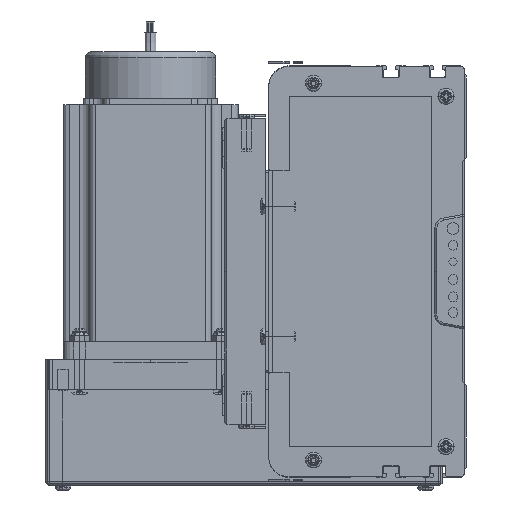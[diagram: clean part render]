
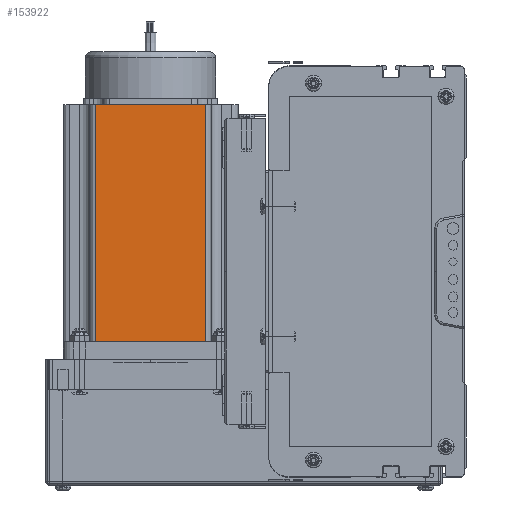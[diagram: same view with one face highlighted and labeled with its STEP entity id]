
A CAD part, left-side view. The second image highlights one B-rep face of the part: STEP entity #153922.
In plain terms, the highlighted planar face has unit normal (-1, 0, 0) as drawn and (0, -1, 0) by its records, which use the part's own axes.
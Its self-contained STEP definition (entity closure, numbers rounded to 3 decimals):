
#36149 = CARTESIAN_POINT ( 'NONE',  ( 69.74, 0., 116.5 ) ) ;
#36154 = DIRECTION ( 'NONE',  ( 1., 0., 0. ) ) ;
#36155 = VECTOR ( 'NONE', #36154, 1000. ) ;
#36156 = CARTESIAN_POINT ( 'NONE',  ( 0., 0., 116.5 ) ) ;
#36157 = LINE ( 'NONE', #36156, #36155 ) ;
#39840 = CARTESIAN_POINT ( 'NONE',  ( 16.16, 0., 116.5 ) ) ;
#40464 = DIRECTION ( 'NONE',  ( 0., 0., -1. ) ) ;
#40465 = VECTOR ( 'NONE', #40464, 1000. ) ;
#40466 = CARTESIAN_POINT ( 'NONE',  ( 16.16, 0., 116.5 ) ) ;
#40467 = LINE ( 'NONE', #40466, #40465 ) ;
#40638 = CARTESIAN_POINT ( 'NONE',  ( 16.16, 0., 0. ) ) ;
#40655 = CARTESIAN_POINT ( 'NONE',  ( 69.74, 0., 0. ) ) ;
#40659 = CARTESIAN_POINT ( 'NONE',  ( 0., 0., 0. ) ) ;
#40660 = LINE ( 'NONE', #40659, #40697 ) ;
#40686 = CARTESIAN_POINT ( 'NONE',  ( 0., 0., 116.5 ) ) ;
#40691 = PLANE ( 'NONE',  #40692 ) ;
#40692 = AXIS2_PLACEMENT_3D ( 'NONE', #40686, #40753, #40752 ) ;
#40694 = DIRECTION ( 'NONE',  ( 1., 0., 0. ) ) ;
#40697 = VECTOR ( 'NONE', #40694, 1000. ) ;
#40742 = LINE ( 'NONE', #40858, #40857 ) ;
#40752 = DIRECTION ( 'NONE',  ( 0., 0., 1. ) ) ;
#40753 = DIRECTION ( 'NONE',  ( 0., 1., 0. ) ) ;
#40758 = FACE_OUTER_BOUND ( 'NONE', #153937, .T. ) ;
#40856 = DIRECTION ( 'NONE',  ( 0., 0., 1. ) ) ;
#40857 = VECTOR ( 'NONE', #40856, 1000. ) ;
#40858 = CARTESIAN_POINT ( 'NONE',  ( 69.74, 0., 116.5 ) ) ;
#153386 = ORIENTED_EDGE ( 'NONE', *, *, #153958, .T. ) ;
#153388 = EDGE_CURVE ( 'NONE', #153536, #153396, #36157, .T. ) ;
#153396 = VERTEX_POINT ( 'NONE', #36149 ) ;
#153400 = ORIENTED_EDGE ( 'NONE', *, *, #153845, .T. ) ;
#153536 = VERTEX_POINT ( 'NONE', #39840 ) ;
#153841 = ORIENTED_EDGE ( 'NONE', *, *, #153388, .F. ) ;
#153845 = EDGE_CURVE ( 'NONE', #153536, #153910, #40467, .T. ) ;
#153901 = EDGE_CURVE ( 'NONE', #153910, #153912, #40660, .T. ) ;
#153910 = VERTEX_POINT ( 'NONE', #40638 ) ;
#153912 = VERTEX_POINT ( 'NONE', #40655 ) ;
#153922 = ADVANCED_FACE ( 'NONE', ( #40758 ), #40691, .F. ) ;
#153930 = ORIENTED_EDGE ( 'NONE', *, *, #153901, .T. ) ;
#153937 = EDGE_LOOP ( 'NONE', ( #153930, #153386, #153841, #153400 ) ) ;
#153958 = EDGE_CURVE ( 'NONE', #153912, #153396, #40742, .T. ) ;
